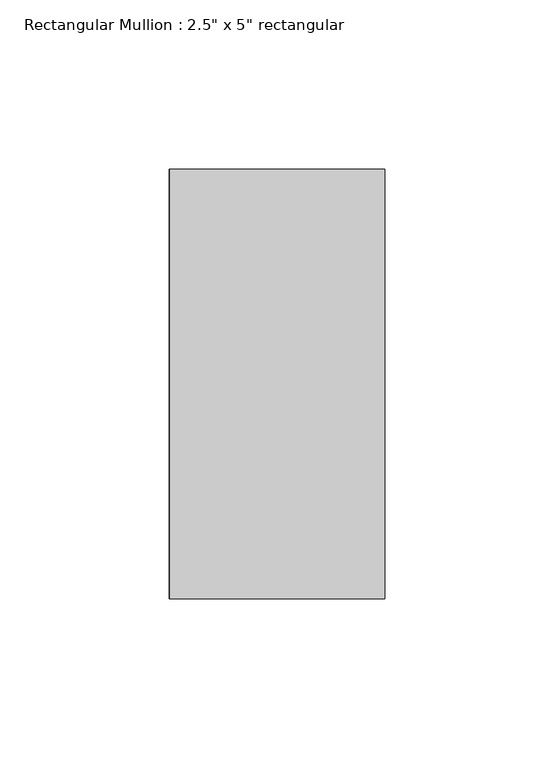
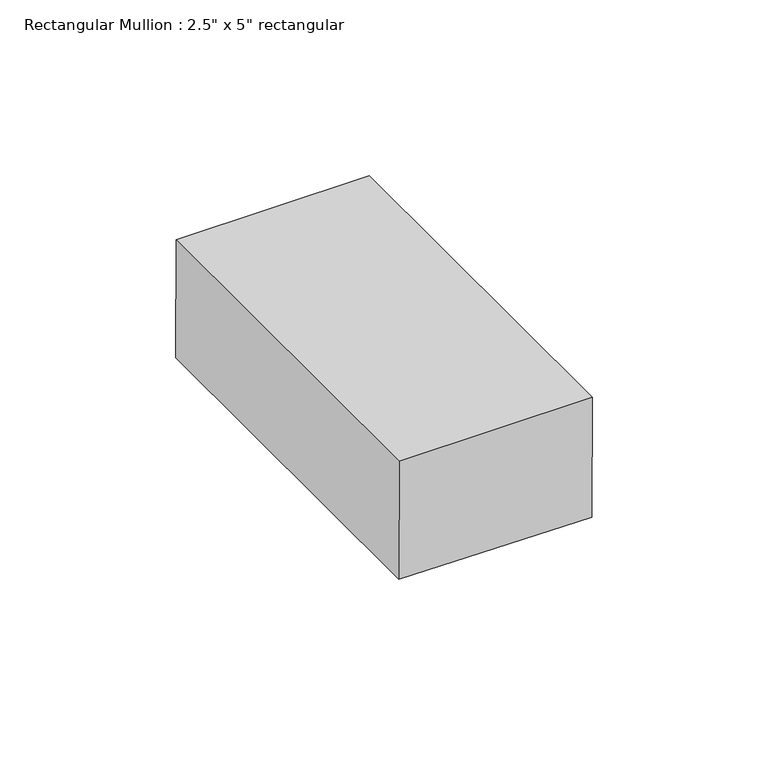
"""IFC4 building model written with IfcOpenShell, lengths in millimetres: member geometry."""

import ifcopenshell
import ifcopenshell.guid

model = None  # the IFC model being written
_history = None  # IfcOwnerHistory: only IFC2X3 demands one
_inside = {}  # id of a spatial element -> (the spatial element, [elements in it])
_under = {}  # id of a project, library or spatial element -> (it, [spatial elements below it])
_declared = {}  # id of a project -> (the project, [libraries it declares])
_typed = {}  # id of a type object -> (the type object, [elements of that type])
_made_of = {}  # id of a material, layer set ... -> (it, [elements and type objects made of it])


def new_model(schema):
    """Start an empty IFC model of exactly this schema.

    Asked for "IFC4X3", IfcOpenShell would pick the latest addendum, in which some entities
    have other attributes; the version numbers below select the first issue.
    IFC2X3 requires an IfcOwnerHistory on every rooted entity: one is made here for all.
    """
    global model, _history
    if schema == "IFC4X3":
        model = ifcopenshell.file(schema_version=(4, 3, 0, 0))
    else:
        model = ifcopenshell.file(schema=schema)
    _inside.clear()
    _under.clear()
    _declared.clear()
    _typed.clear()
    _made_of.clear()
    _history = None
    if model.schema == "IFC2X3":
        org = make("IfcOrganization", Name="unknown")
        user = make(
            "IfcPersonAndOrganization",
            ThePerson=make("IfcPerson", FamilyName="unknown"),
            TheOrganization=org,
        )
        app = make(
            "IfcApplication",
            ApplicationDeveloper=org,
            Version="unknown",
            ApplicationFullName="unknown",
            ApplicationIdentifier="unknown",
        )
        _history = make(
            "IfcOwnerHistory",
            OwningUser=user,
            OwningApplication=app,
            ChangeAction="ADDED",
            CreationDate=0,
        )
    return model


def make(cls, **values):
    """One entity of the class cls with the attributes given. An attribute that is None is left unset."""
    return model.create_entity(
        cls, **{name: value for name, value in values.items() if value is not None}
    )


def rooted(cls, **values):
    """An entity with a GlobalId (a new one), such as an element, a storey or a relation."""
    return make(cls, GlobalId=ifcopenshell.guid.new(), OwnerHistory=_history, **values)


def si_unit(unit_type, name, prefix=None):
    """IfcSIUnit, for example si_unit("LENGTHUNIT", "METRE", prefix="MILLI")."""
    return make("IfcSIUnit", UnitType=unit_type, Prefix=prefix, Name=name)


def assignment(units):
    """IfcUnitAssignment: the units of a project."""
    return None if units is None else make("IfcUnitAssignment", Units=units)


def point(xyz):
    """IfcCartesianPoint."""
    return None if xyz is None else make("IfcCartesianPoint", Coordinates=xyz)


def direction(xyz):
    """IfcDirection."""
    return None if xyz is None else make("IfcDirection", DirectionRatios=xyz)


def frame(location, z_axis=None, x_axis=None):
    """IfcAxis2Placement3D, a coordinate frame: its origin and axes. An axis left out is left unset."""
    return make(
        "IfcAxis2Placement3D",
        Location=point(location),
        Axis=direction(z_axis),
        RefDirection=direction(x_axis),
    )


def frame_2d(location, x_axis=None):
    """IfcAxis2Placement2D, a coordinate frame in the plane: its origin and x axis."""
    return make(
        "IfcAxis2Placement2D", Location=point(location), RefDirection=direction(x_axis)
    )


def origin():
    """The frame at (0, 0, 0) with its axes left unset."""
    return frame((0.0, 0.0, 0.0))


def place(relative_to, where):
    """IfcLocalPlacement: puts the frame where relative to a parent placement (None: the world)."""
    return make(
        "IfcLocalPlacement", PlacementRelTo=relative_to, RelativePlacement=where
    )


def context(
    kind, dimensions, precision=None, world=None, true_north=None, identifier=None
):
    """IfcGeometricRepresentationContext, for example the 3D "Model" context."""
    return make(
        "IfcGeometricRepresentationContext",
        ContextIdentifier=identifier,
        ContextType=kind,
        CoordinateSpaceDimension=dimensions,
        Precision=precision,
        WorldCoordinateSystem=world,
        TrueNorth=true_north,
    )


def project(units=None, contexts=None):
    """IfcProject with its units and contexts."""
    return rooted(
        "IfcProject",
        Name="project",
        RepresentationContexts=contexts,
        UnitsInContext=assignment(units),
    )


def spatial(cls, under=None, at=None, **own):
    """A site, building, storey or space (cls), placed at a placement, below another one or the project."""
    s = rooted(cls, ObjectPlacement=at, **own)
    if under is not None:
        _under.setdefault(under.id(), (under, []))[1].append(s)
    return s


def polyline(points):
    """IfcPolyline through the points."""
    return make("IfcPolyline", Points=[point(p) for p in points])


def circle_curve(where, radius):
    """IfcCircle in the frame where."""
    return make("IfcCircle", Position=where, Radius=radius)


def trimmed(basis, trim1, trim2, sense, master):
    """IfcTrimmedCurve: the piece of a basis curve between two trims."""
    return make(
        "IfcTrimmedCurve",
        BasisCurve=basis,
        Trim1=trim1,
        Trim2=trim2,
        SenseAgreement=sense,
        MasterRepresentation=master,
    )


def segment(curve, same_sense, transition):
    """IfcCompositeCurveSegment."""
    return make(
        "IfcCompositeCurveSegment",
        Transition=transition,
        SameSense=same_sense,
        ParentCurve=curve,
    )


def composite_curve(segments, self_intersect=None):
    """IfcCompositeCurve: segments joined end to end."""
    return make("IfcCompositeCurve", Segments=segments, SelfIntersect=self_intersect)


def outline(outer, holes=None, kind="AREA"):
    """IfcArbitraryClosedProfileDef: a profile drawn as a closed curve; with holes, ...WithVoids."""
    if holes is None:
        return make("IfcArbitraryClosedProfileDef", ProfileType=kind, OuterCurve=outer)
    return make(
        "IfcArbitraryProfileDefWithVoids",
        ProfileType=kind,
        OuterCurve=outer,
        InnerCurves=holes,
    )


def extrude(swept, where, along, depth):
    """IfcExtrudedAreaSolid: the profile swept, set in the frame where, extruded along a direction by depth."""
    return make(
        "IfcExtrudedAreaSolid",
        SweptArea=swept,
        Position=where,
        ExtrudedDirection=direction(along),
        Depth=depth,
    )


def shape(context_of_items, identifier, shape_type, items):
    """IfcShapeRepresentation: the items that make up one representation, for example the "Body"."""
    return make(
        "IfcShapeRepresentation",
        ContextOfItems=context_of_items,
        RepresentationIdentifier=identifier,
        RepresentationType=shape_type,
        Items=items,
    )


def source(mapping_origin, context_of_items, identifier, shape_type, items):
    """IfcRepresentationMap: a shape defined once, which mapped items show again and again."""
    return make(
        "IfcRepresentationMap",
        MappingOrigin=mapping_origin,
        MappedRepresentation=shape(context_of_items, identifier, shape_type, items),
    )


def transform(
    local_origin,
    x_axis=None,
    y_axis=None,
    z_axis=None,
    scale=None,
    scale2=None,
    scale3=None,
    uniform=True,
):
    """IfcCartesianTransformationOperator3D, or its non-uniform kind. x_axis, y_axis, z_axis: its Axis1, 2, 3."""
    if uniform:
        return make(
            "IfcCartesianTransformationOperator3D",
            Axis1=direction(x_axis),
            Axis2=direction(y_axis),
            LocalOrigin=point(local_origin),
            Scale=scale,
            Axis3=direction(z_axis),
        )
    return make(
        "IfcCartesianTransformationOperator3DnonUniform",
        Axis1=direction(x_axis),
        Axis2=direction(y_axis),
        LocalOrigin=point(local_origin),
        Scale=scale,
        Axis3=direction(z_axis),
        Scale2=scale2,
        Scale3=scale3,
    )


def mapped(mapping_source, mapping_target):
    """IfcMappedItem: shows the shape of a source again, moved by a transform."""
    return make(
        "IfcMappedItem", MappingSource=mapping_source, MappingTarget=mapping_target
    )


def made_of(thing, what):
    """Note that an element or type object is made of a material, layer set ...; save() writes the relation."""
    if what is not None:
        _made_of.setdefault(what.id(), (what, []))[1].append(thing)
    return thing


def element(
    cls,
    number,
    at=None,
    inside=None,
    cuts=None,
    type_object=None,
    material=None,
    context=None,
    identifier="Body",
    shape_type=None,
    held_by="IfcProductDefinitionShape",
    body=None,
    shapes=None,
    **own,
):
    """One element of the class cls, such as IfcWall. Its Tag is "e" and its number.

    at: its placement. inside: the storey or other place that contains it. cuts: it is an
    opening in that element (IfcRelVoidsElement). A single representation is given by context,
    identifier, shape_type and body (its items); several are given by shapes. held_by: the class
    of the entity that holds the representations. save() writes the other relations.
    """
    e = rooted(cls, Tag="e%d" % number, ObjectPlacement=at, **own)
    if body is not None:
        shapes = [shape(context, identifier, shape_type, body)]
    if shapes is not None:
        e.Representation = make(held_by, Representations=shapes)
    if inside is not None:
        _inside.setdefault(inside.id(), (inside, []))[1].append(e)
    if cuts is not None:
        rooted(
            "IfcRelVoidsElement", RelatingBuildingElement=cuts, RelatedOpeningElement=e
        )
    if type_object is not None:
        _typed.setdefault(type_object.id(), (type_object, []))[1].append(e)
    return made_of(e, material)


def aggregate(whole, parts):
    """IfcRelAggregates: a whole, such as a stair, and the parts it consists of."""
    return rooted("IfcRelAggregates", RelatingObject=whole, RelatedObjects=parts)


def save(model, path):
    """Write the relations noted so far, then the file.

    IfcRelAggregates (storeys below a building ...), IfcRelContainedInSpatialStructure (elements
    in a storey), IfcRelDefinesByType, IfcRelAssociatesMaterial and IfcRelDeclares: one each for
    every whole, place, type object, material and project.
    """
    for whole, parts in _under.values():
        aggregate(whole, parts)
    for where, things in _inside.values():
        rooted(
            "IfcRelContainedInSpatialStructure",
            RelatedElements=things,
            RelatingStructure=where,
        )
    for kind, things in _typed.values():
        rooted("IfcRelDefinesByType", RelatedObjects=things, RelatingType=kind)
    for what, things in _made_of.values():
        rooted("IfcRelAssociatesMaterial", RelatedObjects=things, RelatingMaterial=what)
    for by, libraries in _declared.values():
        rooted("IfcRelDeclares", RelatingContext=by, RelatedDefinitions=libraries)
    model.write(path)


def member_48355dab(model_context):
    return source(origin(), model_context, "Body", "SweptSolid", [
        extrude(outline(composite_curve([segment(trimmed(circle_curve(frame_2d((0.0, -3962.4000001)), 3962.4000001), [point((-41.6487942, -0.2188913))], [point((0.0, 0.0))], False, "CARTESIAN"), True, "CONTINUOUS"), segment(polyline([(0.0, 0.0), (0.0, -63.5)]), True, "CONTINUOUS"), segment(trimmed(circle_curve(frame_2d((0.0, -3962.4000001)), 3898.9000001), [point((0.0, -63.5))], [point((-40.9813456, -63.7153835))], True, "CARTESIAN"), True, "CONTINUOUS"), segment(polyline([(-40.9813456, -63.7153835), (-41.6487942, -0.2188913)]), True, "CONTINUOUS")], self_intersect=False)), frame((0.0, -63.5, 0.0), z_axis=(0.0, 1.0, 0.0), x_axis=(0.0, 0.0, 1.0)), (0.0, 0.0, 1.0), 127.0),
    ])


if __name__ == "__main__":
    model = new_model("IFC4")
    model_context = context("Model", 3, world=origin())
    ifc_project = project(units=[si_unit("LENGTHUNIT", "METRE", prefix="MILLI")], contexts=[model_context])
    site = spatial("IfcSite", under=ifc_project)
    building = spatial("IfcBuilding", under=site)
    placement = place(None, origin())
    member_shape = member_48355dab(model_context)
    element("IfcMember", 1, ObjectType="Rectangular Mullion : 2.5\" x 5\" rectangular", at=placement, inside=building, context=model_context, shape_type="MappedRepresentation", body=[
        mapped(member_shape, transform((0.0, 0.0, 0.0), x_axis=(1.0, 0.0, 0.0), y_axis=(0.0, 1.0, 0.0), z_axis=(0.0, 0.0, 1.0))),
    ])
    save(model, "model.ifc")
